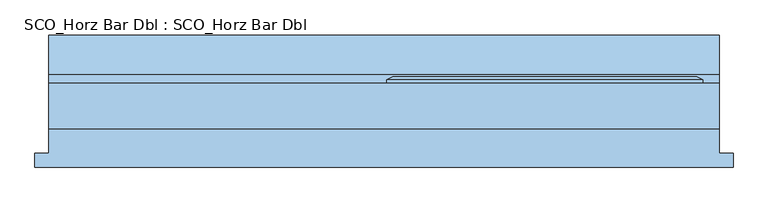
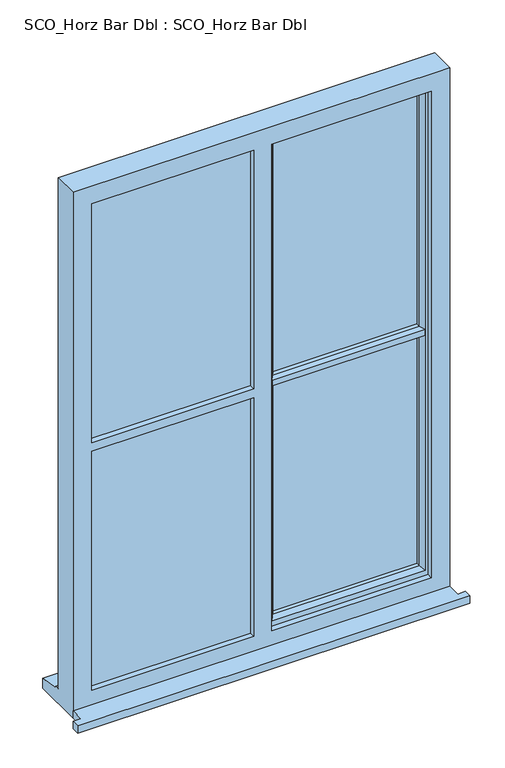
"""IFC4 building model written with IfcOpenShell, lengths in millimetres: window geometry, SCO_Horz Bar Dbl : SCO_Horz Bar Dbl."""

from ifc_helpers import new_model, si_unit, frame, origin, place, context, project, spatial, polyline, outline, extrude, faceted_brep, source, transform, mapped, element, save


def sco_horz_bar_dbl_sco_horz_bar_dbl_0faa4f1c(model_context):
    return source(origin(), model_context, "Body", "SolidModel", [
        extrude(outline(polyline([(-920.0, -131.5434322), (-920.0, -106.5434322), (-895.0, -106.5434322), (-895.0, -62.0434322), (325.0, -62.0434322), (325.0, -106.5434322), (350.0, -106.5434322), (350.0, -131.5434322), (-920.0, -131.5434322)])), frame((0.0, 0.0, 310.0), z_axis=(0.0, 0.0, 1.0), x_axis=(1.0, 0.0, 0.0)), (0.0, 0.0, 1.0), 25.0),
        faceted_brep([(-855.0, 3.5035732, 1220.0542452), (-855.0, -0.6152282, 1232.5), (-310.0, -0.6152282, 1232.5), (-310.0, 3.5035732, 1220.0542452), (-855.0, -20.0434322, 1232.5), (-310.0, -20.0434322, 1232.5), (-855.0, -20.0434322, 1225.5), (-300.0, -20.0434322, 1225.5), (-300.0, -20.0434322, 2070.0), (-310.0, -20.0434322, 2070.0), (-855.0, -20.0434322, 1209.5), (-855.0, -20.0434322, 1202.5), (-310.0, -20.0434322, 1202.5), (-310.0, -20.0434322, 373.0), (-300.0, -20.0434322, 373.0), (-300.0, -20.0434322, 1209.5), (-855.0, -44.0434322, 1225.5), (-300.0, -44.0434322, 1225.5), (-270.0, -44.0434322, 2070.0), (285.0, -44.0434322, 2070.0), (285.0, -44.0434322, 373.0), (-270.0, -44.0434322, 373.0), (265.0, -44.0434322, 2050.0), (-252.0, -44.0434322, 2050.0), (-252.0, -44.0434322, 385.0), (265.0, -44.0434322, 385.0), (-855.0, -44.0434322, 1209.5), (-300.0, -44.0434322, 1209.5), (-300.0, -44.0434322, 373.0), (-855.0, -44.0434322, 373.0), (-310.0, -44.0434322, 1202.5), (-835.0, -44.0434322, 1202.5), (-835.0, -44.0434322, 385.0), (-310.0, -44.0434322, 385.0), (-855.0, -44.0434322, 2070.0), (-300.0, -44.0434322, 2070.0), (-835.0, -44.0434322, 2050.0), (-835.0, -44.0434322, 1232.5), (-310.0, -44.0434322, 1232.5), (-310.0, -44.0434322, 2050.0), (-835.0, -62.0434322, 1232.5), (-310.0, -62.0434322, 1232.5), (325.0, -62.0434322, 2110.0), (-895.0, -62.0434322, 2110.0), (-895.0, -62.0434322, 310.0), (325.0, -62.0434322, 310.0), (-835.0, -62.0434322, 2050.0), (-310.0, -62.0434322, 2050.0), (265.0, -62.0434322, 2050.0), (265.0, -62.0434322, 385.0), (-252.0, -62.0434322, 385.0), (-252.0, -62.0434322, 2050.0), (-310.0, -62.0434322, 1202.5), (-310.0, -62.0434322, 385.0), (-835.0, -62.0434322, 385.0), (-835.0, -62.0434322, 1202.5), (-855.0, -0.6152282, 1202.5), (-310.0, -0.6152282, 1202.5), (-855.0, 3.5035732, 1214.9457548), (-310.0, 3.5035732, 1214.9457548), (-895.0, 20.9565678, 2110.0), (-895.0, 20.9565678, 361.0), (-895.0, 35.9565678, 359.68767), (-895.0, 35.9565678, 354.7449676), (-895.0, 108.4565678, 343.8088847), (-895.0, 108.4565678, 310.0), (325.0, 20.9565678, 2110.0), (325.0, 20.9565678, 361.0), (-855.0, 20.9565678, 2070.0), (-855.0, 20.9565678, 373.0), (-310.0, 20.9565678, 373.0), (-310.0, 20.9565678, 2070.0), (-270.0, 20.9565678, 2070.0), (-270.0, 20.9565678, 373.0), (285.0, 20.9565678, 373.0), (285.0, 20.9565678, 2070.0), (325.0, 108.4565678, 310.0), (325.0, 108.4565678, 343.8088847), (325.0, 35.9565678, 354.7449676), (325.0, 35.9565678, 359.68767)], [[[0, 1, 2, 3]], [[1, 4, 5, 2]], [[4, 6, 7, 8, 9, 5]], [[10, 11, 12, 13, 14, 15]], [[6, 16, 17, 7]], [[18, 19, 20, 21], [22, 23, 24, 25]], [[26, 27, 28, 29], [30, 31, 32, 33]], [[16, 34, 35, 17], [36, 37, 38, 39]], [[37, 40, 41, 38]], [[42, 43, 44, 45], [40, 46, 47, 41], [48, 49, 50, 51], [52, 53, 54, 55]], [[55, 31, 30, 52]], [[26, 10, 15, 27]], [[11, 56, 57, 12]], [[56, 58, 59, 57]], [[58, 0, 3, 59]], [[44, 43, 60, 61, 62, 63, 64, 65]], [[61, 60, 66, 67], [68, 69, 70, 71], [72, 73, 74, 75]], [[69, 68, 34, 16, 6, 4, 1, 0, 58, 56, 11, 10, 26, 29]], [[31, 55, 54, 32]], [[36, 46, 40, 37]], [[43, 42, 66, 60]], [[34, 68, 71, 9, 8, 35]], [[75, 19, 18, 72]], [[46, 36, 39, 47]], [[22, 48, 51, 23]], [[67, 66, 42, 45, 76, 77, 78, 79]], [[75, 74, 20, 19]], [[48, 22, 25, 49]], [[7, 17, 35, 8]], [[28, 27, 15, 14]], [[71, 70, 13, 12, 57, 59, 3, 2, 5, 9]], [[73, 72, 18, 21]], [[23, 51, 50, 24]], [[41, 47, 39, 38]], [[52, 30, 33, 53]], [[76, 45, 44, 65]], [[77, 76, 65, 64]], [[78, 77, 64, 63]], [[79, 78, 63, 62]], [[67, 79, 62, 61]], [[29, 28, 14, 13, 70, 69]], [[74, 73, 21, 20]], [[33, 32, 54, 53]], [[50, 49, 25, 24]]]),
        extrude(outline(polyline([(255.1480377, -15.0434322), (-240.0, -15.0434322), (-240.0, 8.9565678), (255.1480377, 8.9565678), (255.1480377, -15.0434322)])), frame((0.0, 0.0, 403.0), z_axis=(0.0, 0.0, 1.0), x_axis=(1.0, 0.0, 0.0)), (0.0, 0.0, 1.0), 806.5),
        extrude(outline(polyline([(255.1480377, -15.0434322), (-240.0, -15.0434322), (-240.0, 8.9565678), (255.1480377, 8.9565678), (255.1480377, -15.0434322)])), frame((0.0, 0.0, 1225.5), z_axis=(0.0, 0.0, 1.0), x_axis=(1.0, 0.0, 0.0)), (0.0, 0.0, 1.0), 814.5),
        extrude(outline(polyline([(-855.0, -20.0434322), (-300.0, -20.0434322), (-300.0, -44.0434322), (-855.0, -44.0434322), (-855.0, -20.0434322)])), frame((0.0, 0.0, 373.0), z_axis=(0.0, 0.0, 1.0), x_axis=(1.0, 0.0, 0.0)), (0.0, 0.0, 1.0), 836.5),
        extrude(outline(polyline([(-855.0, -20.0434322), (-300.0, -20.0434322), (-300.0, -44.0434322), (-855.0, -44.0434322), (-855.0, -20.0434322)])), frame((0.0, 0.0, 1225.5), z_axis=(0.0, 0.0, 1.0), x_axis=(1.0, 0.0, 0.0)), (0.0, 0.0, 1.0), 844.5),
        extrude(outline(polyline([(32.5035732, 1220.0542452), (32.5035732, 1214.9457548), (28.3847718, 1202.5), (8.9565678, 1202.5), (8.9565678, 1209.5), (-15.0434322, 1209.5), (-15.0434322, 1202.5), (-29.5505323, 1202.5), (-44.0434322, 1207.6480377), (-44.0434322, 1227.3519623), (-29.5505323, 1232.5), (-15.0434322, 1232.5), (-15.0434322, 1225.5), (8.9565678, 1225.5), (8.9565678, 1232.5), (28.3847718, 1232.5), (32.5035732, 1220.0542452)])), frame((-240.1480377, 0.0, 0.0), z_axis=(1.0, 0.0, 0.0), x_axis=(0.0, 1.0, 0.0)), (0.0, 0.0, 1.0), 495.2960754),
        extrude(outline(polyline([(2050.0, -310.0), (2070.0, -310.0), (2070.0, -855.0), (373.0, -855.0), (373.0, -310.0), (393.0, -310.0), (393.0, -835.0), (2050.0, -835.0), (2050.0, -310.0)])), frame((0.0, -20.0434322, 0.0), z_axis=(0.0, 1.0, 0.0), x_axis=(0.0, 0.0, 1.0)), (0.0, 0.0, 1.0), 41.0),
        faceted_brep([(-280.0, 20.9565678, 2080.0), (-280.0, 26.7300705, 2080.0), (-280.0, 26.7300705, 363.0), (-280.0, 20.9565678, 363.0), (-270.0, -44.0434322, 2070.0), (-270.0, 20.9565678, 2070.0), (-270.0, 20.9565678, 373.0), (-270.0, -44.0434322, 373.0), (-230.0, -29.5505323, 2030.0), (-240.1480377, -44.0434322, 2040.1480377), (-240.1480377, -44.0434322, 402.8519623), (-230.0, -29.5505323, 413.0), (-230.0, -15.0434322, 2030.0), (-230.0, -15.0434322, 413.0), (-240.0, 8.9565678, 2040.0), (-240.0, -15.0434322, 2040.0), (-240.0, -15.0434322, 403.0), (-240.0, 8.9565678, 403.0), (-230.0, 26.7300705, 2030.0), (-230.0, 8.9565678, 2030.0), (-230.0, 8.9565678, 413.0), (-230.0, 26.7300705, 413.0), (-240.0, 32.5035732, 2040.0), (-240.0, 32.5035732, 403.0), (-269.2153903, 32.5035732, 2069.2153903), (-269.2153903, 32.5035732, 373.7846097), (295.0, 26.7300705, 363.0), (295.0, 20.9565678, 363.0), (285.0, 20.9565678, 373.0), (285.0, -44.0434322, 373.0), (255.1480377, -44.0434322, 402.8519623), (245.0, -29.5505323, 413.0), (245.0, -15.0434322, 413.0), (255.0, -15.0434322, 403.0), (255.0, 8.9565678, 403.0), (245.0, 8.9565678, 413.0), (245.0, 26.7300705, 413.0), (255.0, 32.5035732, 403.0), (284.2153903, 32.5035732, 373.7846097), (295.0, 26.7300705, 2080.0), (295.0, 20.9565678, 2080.0), (285.0, 20.9565678, 2070.0), (285.0, -44.0434322, 2070.0), (255.1480377, -44.0434322, 2040.1480377), (245.0, -29.5505323, 2030.0), (245.0, -15.0434322, 2030.0), (255.0, -15.0434322, 2040.0), (255.0, 8.9565678, 2040.0), (245.0, 8.9565678, 2030.0), (245.0, 26.7300705, 2030.0), (255.0, 32.5035732, 2040.0), (284.2153903, 32.5035732, 2069.2153903)], [[[0, 1, 2, 3]], [[4, 5, 6, 7]], [[8, 9, 10, 11]], [[12, 8, 11, 13]], [[14, 15, 16, 17]], [[18, 19, 20, 21]], [[22, 18, 21, 23]], [[1, 24, 25, 2]], [[3, 2, 26, 27]], [[7, 6, 28, 29]], [[11, 10, 30, 31]], [[13, 11, 31, 32]], [[17, 16, 33, 34]], [[21, 20, 35, 36]], [[23, 21, 36, 37]], [[2, 25, 38, 26]], [[27, 26, 39, 40]], [[29, 28, 41, 42]], [[31, 30, 43, 44]], [[32, 31, 44, 45]], [[34, 33, 46, 47]], [[36, 35, 48, 49]], [[37, 36, 49, 50]], [[26, 38, 51, 39]], [[40, 39, 1, 0]], [[3, 27, 40, 0], [5, 41, 28, 6]], [[42, 41, 5, 4]], [[7, 29, 42, 4], [9, 43, 30, 10]], [[44, 43, 9, 8]], [[45, 44, 8, 12]], [[15, 46, 33, 16], [13, 32, 45, 12]], [[47, 46, 15, 14]], [[17, 34, 47, 14], [19, 48, 35, 20]], [[49, 48, 19, 18]], [[50, 49, 18, 22]], [[24, 51, 38, 25], [23, 37, 50, 22]], [[39, 51, 24, 1]]]),
    ])


if __name__ == "__main__":
    model = new_model("IFC4")
    model_context = context("Model", 3, world=origin())
    ifc_project = project(units=[si_unit("LENGTHUNIT", "METRE", prefix="MILLI")], contexts=[model_context])
    site = spatial("IfcSite", under=ifc_project)
    building = spatial("IfcBuilding", under=site)
    placement = place(None, origin())
    sco_horz_bar_dbl_sco_horz_bar_dbl_shape = sco_horz_bar_dbl_sco_horz_bar_dbl_0faa4f1c(model_context)
    element("IfcWindow", 1, ObjectType="SCO_Horz Bar Dbl : SCO_Horz Bar Dbl", at=placement, inside=building, context=model_context, shape_type="MappedRepresentation", body=[
        mapped(sco_horz_bar_dbl_sco_horz_bar_dbl_shape, transform((0.0, 0.0, 0.0), x_axis=(1.0, 0.0, 0.0), y_axis=(0.0, 1.0, 0.0), z_axis=(0.0, 0.0, 1.0))),
    ])
    save(model, "model.ifc")
